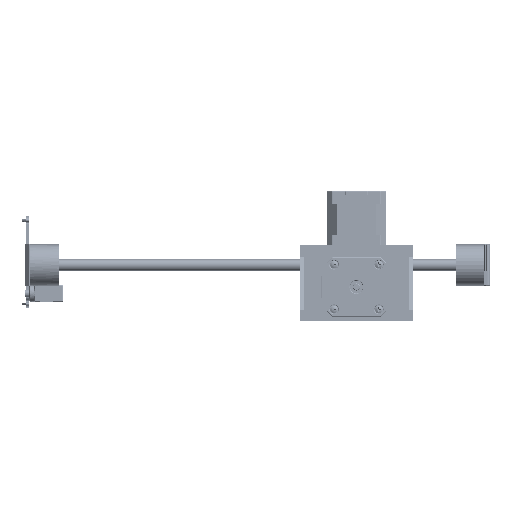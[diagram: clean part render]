
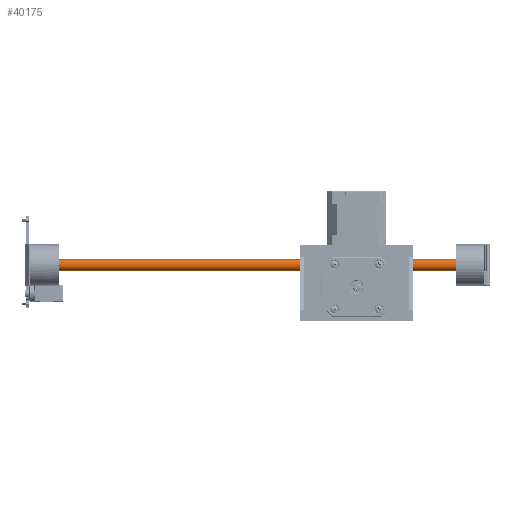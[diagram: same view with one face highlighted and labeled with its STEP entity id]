
A CAD part, front view. The second image highlights one B-rep face of the part: STEP entity #40175.
In plain terms, the highlighted cylindrical face has radius 4 mm (diameter 8 mm), a full revolution.
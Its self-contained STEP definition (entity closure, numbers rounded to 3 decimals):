
#5109=FACE_OUTER_BOUND('',#7432,.T.);
#7432=EDGE_LOOP('',(#35378,#35379,#35380,#35381));
#10821=LINE('',#113423,#14265);
#14265=VECTOR('',#51406,4.);
#15077=CIRCLE('',#43139,4.);
#15078=CIRCLE('',#43141,4.);
#18728=VERTEX_POINT('',#113418);
#18729=VERTEX_POINT('',#113421);
#24343=EDGE_CURVE('',#18728,#18728,#15077,.T.);
#24344=EDGE_CURVE('',#18729,#18729,#15078,.T.);
#24345=EDGE_CURVE('',#18729,#18728,#10821,.T.);
#35378=ORIENTED_EDGE('',*,*,#24344,.F.);
#35379=ORIENTED_EDGE('',*,*,#24345,.T.);
#35380=ORIENTED_EDGE('',*,*,#24343,.F.);
#35381=ORIENTED_EDGE('',*,*,#24345,.F.);
#37979=CYLINDRICAL_SURFACE('',#43140,4.);
#40175=ADVANCED_FACE('',(#5109),#37979,.T.);
#43139=AXIS2_PLACEMENT_3D('',#113419,#51400,#51401);
#43140=AXIS2_PLACEMENT_3D('',#113420,#51402,#51403);
#43141=AXIS2_PLACEMENT_3D('',#113422,#51404,#51405);
#51400=DIRECTION('center_axis',(-1.,0.,0.));
#51401=DIRECTION('ref_axis',(0.,1.,0.));
#51402=DIRECTION('center_axis',(1.,0.,0.));
#51403=DIRECTION('ref_axis',(0.,1.,0.));
#51404=DIRECTION('center_axis',(1.,0.,0.));
#51405=DIRECTION('ref_axis',(0.,1.,0.));
#51406=DIRECTION('',(-1.,0.,0.));
#113418=CARTESIAN_POINT('',(-180.,181.354,39.511));
#113419=CARTESIAN_POINT('Origin',(-180.,185.354,39.511));
#113420=CARTESIAN_POINT('Origin',(40.,185.354,39.511));
#113421=CARTESIAN_POINT('',(120.,181.354,39.511));
#113422=CARTESIAN_POINT('Origin',(120.,185.354,39.511));
#113423=CARTESIAN_POINT('',(40.,181.354,39.511));
